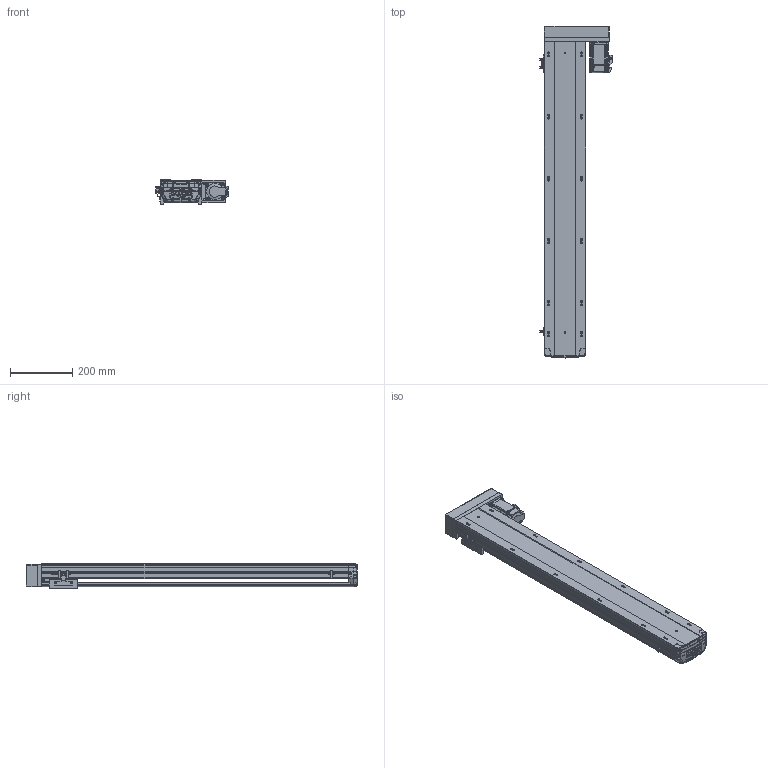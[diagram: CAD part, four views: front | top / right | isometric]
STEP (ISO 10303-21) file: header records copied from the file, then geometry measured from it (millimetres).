
FILE_DESCRIPTION (( 'STEP AP203' ), '1' );
FILE_NAME ('17.STEP', '2020-11-07T00:27:24', ( '' ), ( '' ), 'SwSTEP 2.0', 'SolidWorks 2016', '' );
FILE_SCHEMA (( 'CONFIG_CONTROL_DESIGN' ));
Length unit declared in the file: millimetre
Products named in the file (10): BTH13-BL-BM-BR-菁釱; BTH13-BL-01; BTH13-BL-03; BTH13-BL-HZ; BTH13-BL-06; BTH13-BL-P20; BTH13-BL-04; BTH13-BL-20; BTH13-BL-02; 17
Assembly tree (12 placements, depth 2):
  17
    BTH13-BL-BM-BR-菁釱
    BTH13-BL-03
    BTH13-BL-01
    BTH13-BL-02
    BTH13-BL-04  x4
    BTH13-BL-06
    BTH13-BL-HZ
    BTH13-BL-P20
    BTH13-BL-20
Bounding box: 233.2 x 1068.71 x 78 mm (x, y, z)
Volume: 4535666.1 mm3; surface area: 1052710.9 mm2
Topology: 13 solids, 13 shells, 2009 faces, 5398 edges, 3479 vertices
Faces by surface type: plane 1106, cylinder 543, bspline 201, cone 126, torus 33
Entity records: 63005 total; most frequent: CARTESIAN_POINT 21736, ORIENTED_EDGE 8786, DIRECTION 7790, EDGE_CURVE 4393, VERTEX_POINT 2843, AXIS2_PLACEMENT_3D 2647, VECTOR 2496, LINE 2496
